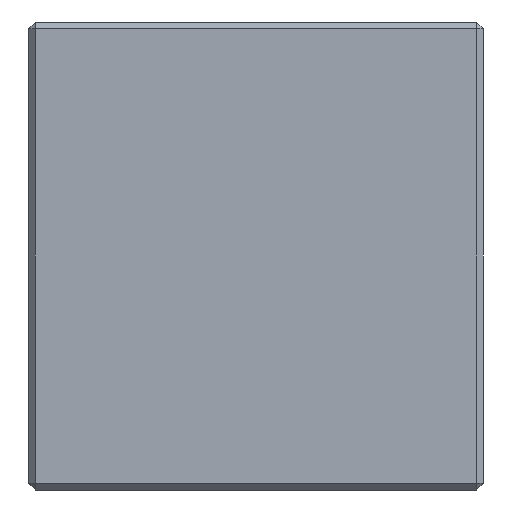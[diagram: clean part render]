
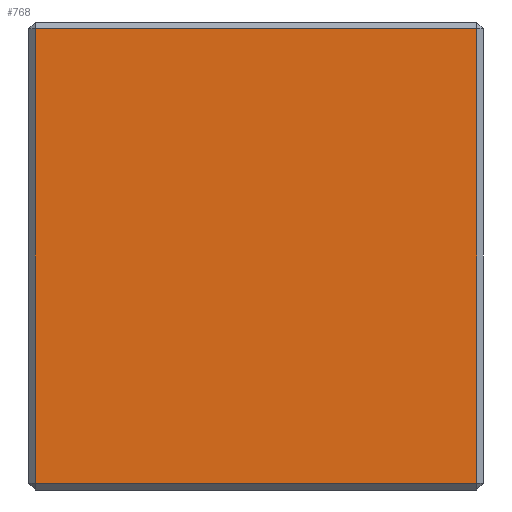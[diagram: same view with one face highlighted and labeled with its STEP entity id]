
A CAD part, left-side view. The second image highlights one B-rep face of the part: STEP entity #768.
In plain terms, the highlighted planar face has unit normal (-1, 0, 0).
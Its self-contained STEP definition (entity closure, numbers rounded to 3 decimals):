
#35 = DIRECTION ( 'NONE',  ( 0., 1., 0. ) ) ;
#39 = CARTESIAN_POINT ( 'NONE',  ( -45., 34., 35. ) ) ;
#63 = VECTOR ( 'NONE', #425, 1000. ) ;
#87 = CARTESIAN_POINT ( 'NONE',  ( -45., -32., 34. ) ) ;
#97 = VERTEX_POINT ( 'NONE', #1816 ) ;
#312 = VERTEX_POINT ( 'NONE', #87 ) ;
#368 = DIRECTION ( 'NONE',  ( 0., 0., -1. ) ) ;
#394 = VECTOR ( 'NONE', #368, 1000. ) ;
#425 = DIRECTION ( 'NONE',  ( 0., 1., 0. ) ) ;
#462 = CARTESIAN_POINT ( 'NONE',  ( -45., 35., -34. ) ) ;
#557 = EDGE_LOOP ( 'NONE', ( #1037, #948, #1465, #1600 ) ) ;
#641 = FACE_OUTER_BOUND ( 'NONE', #557, .T. ) ;
#657 = PLANE ( 'NONE',  #1306 ) ;
#668 = EDGE_CURVE ( 'NONE', #97, #312, #1787, .T. ) ;
#768 = ADVANCED_FACE ( 'NONE', ( #641 ), #657, .F. ) ;
#813 = VERTEX_POINT ( 'NONE', #1201 ) ;
#819 = CARTESIAN_POINT ( 'NONE',  ( -45., 35., 35. ) ) ;
#916 = LINE ( 'NONE', #1564, #63 ) ;
#948 = ORIENTED_EDGE ( 'NONE', *, *, #1754, .T. ) ;
#1037 = ORIENTED_EDGE ( 'NONE', *, *, #668, .T. ) ;
#1049 = VERTEX_POINT ( 'NONE', #1220 ) ;
#1178 = DIRECTION ( 'NONE',  ( 1., 0., 0. ) ) ;
#1192 = LINE ( 'NONE', #39, #394 ) ;
#1201 = CARTESIAN_POINT ( 'NONE',  ( -45., 34., -34. ) ) ;
#1220 = CARTESIAN_POINT ( 'NONE',  ( -45., 34., 34. ) ) ;
#1306 = AXIS2_PLACEMENT_3D ( 'NONE', #819, #1178, #35 ) ;
#1352 = DIRECTION ( 'NONE',  ( 0., 0., 1. ) ) ;
#1465 = ORIENTED_EDGE ( 'NONE', *, *, #1561, .T. ) ;
#1561 = EDGE_CURVE ( 'NONE', #1049, #813, #1192, .T. ) ;
#1564 = CARTESIAN_POINT ( 'NONE',  ( -45., 35., 34. ) ) ;
#1600 = ORIENTED_EDGE ( 'NONE', *, *, #1664, .T. ) ;
#1604 = DIRECTION ( 'NONE',  ( 0., -1., 0. ) ) ;
#1664 = EDGE_CURVE ( 'NONE', #813, #97, #2081, .T. ) ;
#1688 = VECTOR ( 'NONE', #1604, 1000. ) ;
#1754 = EDGE_CURVE ( 'NONE', #312, #1049, #916, .T. ) ;
#1787 = LINE ( 'NONE', #2085, #1838 ) ;
#1816 = CARTESIAN_POINT ( 'NONE',  ( -45., -32., -34. ) ) ;
#1838 = VECTOR ( 'NONE', #1352, 1000. ) ;
#2081 = LINE ( 'NONE', #462, #1688 ) ;
#2085 = CARTESIAN_POINT ( 'NONE',  ( -45., -32., 35. ) ) ;
